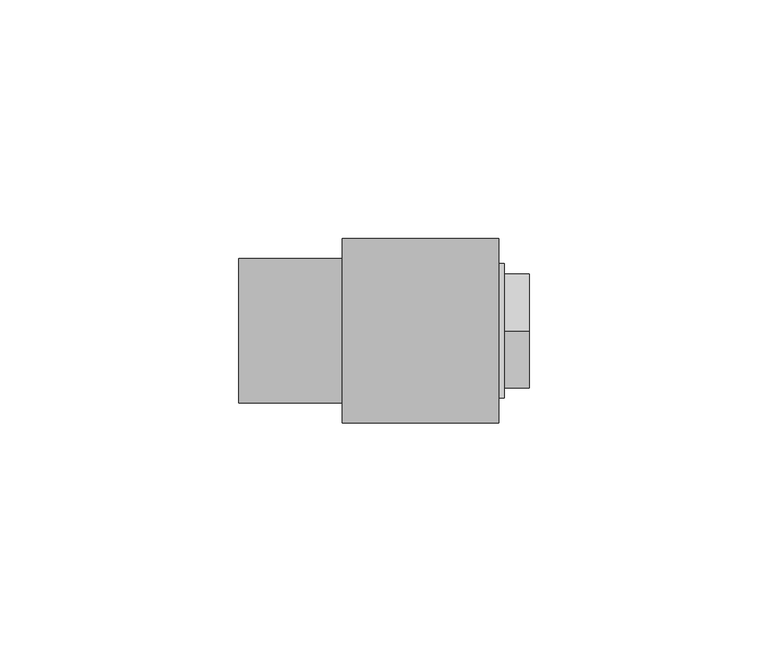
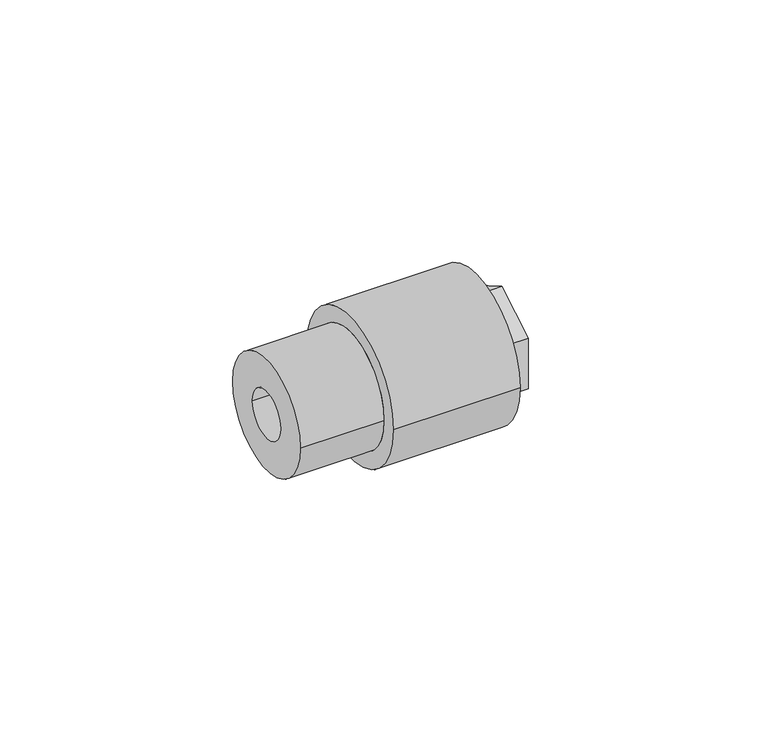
"""IFC4 building model written with IfcOpenShell, lengths in millimetres: pipe fitting geometry, Aquatherm - Fusion Outlet Transition Female : POTABLE BRASS - HEX."""

from ifc_helpers import new_model, si_unit, frame, origin, place, context, project, spatial, polyline, circle_curve, source, transform, mapped, element, save
from ifc_brep_helpers import plane_surface, cylinder_surface, revolved_surface, advanced_brep


def pipe_fitting_63520578(model_context):
    return source(origin(), model_context, "Body", "AdvancedBrep", [
        advanced_brep(
        [(26.416, 9.525, 0.0), (26.416, -9.525, 0.0), (36.5363125, -9.525, 0.0), (36.5363125, 9.525, 0.0), (26.416, 10.31875, 0.0), (26.416, -10.31875, 0.0), (23.241, 10.31875, 0.0), (23.241, -10.31875, 0.0), (23.241, 6.35, 0.0), (23.241, -6.35, 0.0), (20.066, 6.35, 0.0), (20.066, -6.35, 0.0), (20.066, 15.113, 0.0), (20.066, -15.113, 0.0), (32.766, 15.113, 0.0), (32.766, -15.113, 0.0), (39.116, 10.31875, 0.0), (39.116, -10.31875, 0.0), (39.116, -11.938, 0.0), (39.116, -11.938, -6.8924075), (39.116, 0.0, -13.784815), (39.116, 11.938, -6.8924075), (39.116, 11.938, 0.0), (39.116, 11.938, 6.8924075), (39.116, 0.0, 13.784815), (39.116, -11.938, 6.8924075), (32.766, 14.097, 0.0), (32.766, -14.097, 0.0), (33.956625, 14.097, 0.0), (33.956625, -14.097, 0.0), (33.956625, 0.0, -13.784815), (33.956625, -11.938, -6.8924075), (33.956625, -11.938, 6.8924075), (33.956625, 0.0, 13.784815), (33.956625, 11.938, 6.8924075), (33.956625, 11.938, -6.8924075)],
        [
            (0, 1, circle_curve(frame((26.416, 0.0, 0.0), z_axis=(-1.0, 0.0, 0.0), x_axis=(0.0, -1.0, 0.0)), 9.525)),
            (1, 2),
            (2, 3, circle_curve(frame((36.5363125, 0.0, 0.0), z_axis=(1.0, 0.0, 0.0), x_axis=(0.0, -1.0, 0.0)), 9.525)),
            (3, 0),
            (1, 0, circle_curve(frame((26.416, 0.0, 0.0), z_axis=(-1.0, 0.0, 0.0), x_axis=(0.0, -1.0, 0.0)), 9.525)),
            (3, 2, circle_curve(frame((36.5363125, 0.0, 0.0), z_axis=(1.0, 0.0, 0.0), x_axis=(0.0, -1.0, 0.0)), 9.525)),
            (0, 4),
            (4, 5, circle_curve(frame((26.416, 0.0, 0.0), z_axis=(-1.0, 0.0, 0.0), x_axis=(0.0, -1.0, 0.0)), 10.31875)),
            (5, 1),
            (5, 4, circle_curve(frame((26.416, 0.0, 0.0), z_axis=(-1.0, 0.0, 0.0), x_axis=(0.0, -1.0, 0.0)), 10.31875)),
            (4, 6),
            (6, 7, circle_curve(frame((23.241, 0.0, 0.0), z_axis=(-1.0, 0.0, 0.0), x_axis=(0.0, -1.0, 0.0)), 10.31875)),
            (7, 5),
            (7, 6, circle_curve(frame((23.241, 0.0, 0.0), z_axis=(-1.0, 0.0, 0.0), x_axis=(0.0, -1.0, 0.0)), 10.31875)),
            (6, 8),
            (8, 9, circle_curve(frame((23.241, 0.0, 0.0), z_axis=(-1.0, 0.0, 0.0), x_axis=(0.0, -1.0, 0.0)), 6.35)),
            (9, 7),
            (9, 8, circle_curve(frame((23.241, 0.0, 0.0), z_axis=(-1.0, 0.0, 0.0), x_axis=(0.0, -1.0, 0.0)), 6.35)),
            (8, 10),
            (10, 11, circle_curve(frame((20.066, 0.0, 0.0), z_axis=(-1.0, 0.0, 0.0), x_axis=(0.0, -1.0, 0.0)), 6.35)),
            (11, 9),
            (11, 10, circle_curve(frame((20.066, 0.0, 0.0), z_axis=(-1.0, 0.0, 0.0), x_axis=(0.0, -1.0, 0.0)), 6.35)),
            (10, 12),
            (12, 13, circle_curve(frame((20.066, 0.0, 0.0), z_axis=(-1.0, 0.0, 0.0), x_axis=(0.0, -1.0, 0.0)), 15.113)),
            (13, 11),
            (13, 12, circle_curve(frame((20.066, 0.0, 0.0), z_axis=(-1.0, 0.0, 0.0), x_axis=(0.0, -1.0, 0.0)), 15.113)),
            (12, 14),
            (14, 15, circle_curve(frame((32.766, 0.0, 0.0), z_axis=(-1.0, 0.0, 0.0), x_axis=(0.0, -1.0, 0.0)), 15.113)),
            (15, 13),
            (15, 14, circle_curve(frame((32.766, 0.0, 0.0), z_axis=(-1.0, 0.0, 0.0), x_axis=(0.0, -1.0, 0.0)), 15.113)),
            (16, 17, circle_curve(frame((39.116, 0.0, 0.0), z_axis=(-1.0, 0.0, 0.0), x_axis=(0.0, -1.0, 0.0)), 10.31875)),
            (17, 18),
            (18, 19),
            (19, 20),
            (20, 21),
            (21, 22),
            (22, 16),
            (17, 16, circle_curve(frame((39.116, 0.0, 0.0), z_axis=(-1.0, 0.0, 0.0), x_axis=(0.0, -1.0, 0.0)), 10.31875)),
            (22, 23),
            (23, 24),
            (24, 25),
            (25, 18),
            (2, 17),
            (16, 3),
            (14, 26),
            (26, 27, circle_curve(frame((32.766, 0.0, 0.0), z_axis=(-1.0, 0.0, 0.0), x_axis=(0.0, -1.0, 0.0)), 14.097)),
            (27, 15),
            (27, 26, circle_curve(frame((32.766, 0.0, 0.0), z_axis=(-1.0, 0.0, 0.0), x_axis=(0.0, -1.0, 0.0)), 14.097)),
            (26, 28),
            (28, 29, circle_curve(frame((33.956625, 0.0, 0.0), z_axis=(-1.0, 0.0, 0.0), x_axis=(0.0, -1.0, 0.0)), 14.097)),
            (29, 27),
            (29, 28, circle_curve(frame((33.956625, 0.0, 0.0), z_axis=(-1.0, 0.0, 0.0), x_axis=(0.0, -1.0, 0.0)), 14.097)),
            (30, 31),
            (31, 32),
            (32, 33),
            (33, 34),
            (34, 35),
            (35, 30),
            (35, 21),
            (20, 30),
            (34, 23),
            (33, 24),
            (32, 25),
            (31, 19),
        ],
        [
            revolved_surface(polyline([(36.5363125, -9.525, 0.0), (26.416, -9.525, 0.0)]), (40.9492251, 0.0, 0.0), (1.0, 0.0, 0.0)),
            plane_surface(frame((26.416, 0.0, 0.0), z_axis=(-1.0, 0.0, 0.0), x_axis=(0.0, -1.0, 0.0))),
            revolved_surface(polyline([(26.416, -10.31875, 0.0), (23.241, -10.31875, 0.0)]), (40.9492251, 0.0, 0.0), (1.0, 0.0, 0.0)),
            plane_surface(frame((23.241, 0.0, 0.0), z_axis=(1.0, 0.0, 0.0), x_axis=(0.0, -1.0, 0.0))),
            revolved_surface(polyline([(23.241, -6.35, 0.0), (20.066, -6.35, 0.0)]), (40.9492251, 0.0, 0.0), (1.0, 0.0, 0.0)),
            plane_surface(frame((20.066, 0.0, 0.0), z_axis=(-1.0, 0.0, 0.0), x_axis=(0.0, -1.0, 0.0))),
            cylinder_surface(frame((40.9492251, 0.0, 0.0), z_axis=(1.0, 0.0, 0.0), x_axis=(0.0, -1.0, 0.0)), 15.113),
            plane_surface(frame((39.116, 0.0, 0.0), z_axis=(1.0, 0.0, 0.0), x_axis=(0.0, -1.0, 0.0))),
            revolved_surface(polyline([(39.116, -10.31875, 0.0), (36.5363125, -9.525, 0.0)]), (40.9492251, 0.0, 0.0), (1.0, 0.0, 0.0)),
            plane_surface(frame((32.766, 0.0, 0.0), z_axis=(1.0, 0.0, 0.0), x_axis=(0.0, -1.0, 0.0))),
            cylinder_surface(frame((40.9492251, 0.0, 0.0), z_axis=(1.0, 0.0, 0.0), x_axis=(0.0, -1.0, 0.0)), 14.097),
            plane_surface(frame((33.956625, 11.938, -6.8924075), z_axis=(1.0, 0.0, 0.0), x_axis=(0.0, 0.8660254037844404, 0.49999999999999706))),
            plane_surface(frame((33.956625, 0.0, -13.784815), z_axis=(0.0, 0.49999999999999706, -0.8660254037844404), x_axis=(1.0, 0.0, 0.0))),
            plane_surface(frame((33.956625, 11.938, -6.8924075), z_axis=(0.0, 1.0, 0.0), x_axis=(1.0, 0.0, 0.0))),
            plane_surface(frame((33.956625, 11.938, 6.8924075), z_axis=(0.0, 0.5000000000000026, 0.8660254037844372), x_axis=(1.0, 0.0, 0.0))),
            plane_surface(frame((33.956625, 0.0, 13.784815), z_axis=(0.0, -0.4999999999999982, 0.8660254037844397), x_axis=(1.0, 0.0, 0.0))),
            plane_surface(frame((33.956625, -11.938, 6.8924075), z_axis=(0.0, -1.0, 0.0), x_axis=(1.0, 0.0, 0.0))),
            plane_surface(frame((33.956625, -11.938, -6.8924075), z_axis=(0.0, -0.5000000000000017, -0.8660254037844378), x_axis=(1.0, 0.0, 0.0))),
        ],
        [
            (0, [[1, 2, 3, 4]]),
            (0, [[-2, 5, -4, 6]]),
            (1, [[-1, 7, 8, 9]]),
            (1, [[-5, -9, 10, -7]]),
            (2, [[-8, 11, 12, 13]]),
            (2, [[-10, -13, 14, -11]]),
            (3, [[-12, 15, 16, 17]]),
            (3, [[-14, -17, 18, -15]]),
            (4, [[-16, 19, 20, 21]]),
            (4, [[-18, -21, 22, -19]]),
            (5, [[-20, 23, 24, 25]]),
            (5, [[-22, -25, 26, -23]]),
            (6, [[-24, 27, 28, 29]]),
            (6, [[-26, -29, 30, -27]]),
            (7, [[31, 32, 33, 34, 35, 36, 37]]),
            (7, [[38, -37, 39, 40, 41, 42, -32]]),
            (8, [[-3, 43, -31, 44]]),
            (8, [[-6, -44, -38, -43]]),
            (9, [[-28, 45, 46, 47]]),
            (9, [[-30, -47, 48, -45]]),
            (10, [[-46, 49, 50, 51]]),
            (10, [[-48, -51, 52, -49]]),
            (11, [[-50, -52], [53, 54, 55, 56, 57, 58]]),
            (12, [[-58, 59, -35, 60]]),
            (13, [[-57, 61, -39, -36, -59]]),
            (14, [[-56, 62, -40, -61]]),
            (15, [[-55, 63, -41, -62]]),
            (16, [[-54, 64, -33, -42, -63]]),
            (17, [[-53, -60, -34, -64]]),
        ],
    ),
        advanced_brep(
        [(-21.6243243, 15.113, 0.0), (-21.6243243, -15.113, 0.0), (-21.6243243, 6.35, 0.0), (-21.6243243, -6.35, 0.0), (20.066, 15.113, 0.0), (20.066, -15.113, 0.0), (20.066, 6.35, 0.0), (20.066, -6.35, 0.0), (0.0, 15.113, 0.0), (0.0, -15.113, 0.0), (32.766, 19.304, 0.0), (32.766, -19.304, 0.0), (32.766, 15.113, 0.0), (32.766, -15.113, 0.0), (0.0, 19.304, 0.0), (0.0, -19.304, 0.0)],
        [
            (0, 1, circle_curve(frame((-21.6243243, 0.0, 0.0), z_axis=(-1.0, 0.0, 0.0), x_axis=(0.0, -1.0, 0.0)), 15.113)),
            (1, 0, circle_curve(frame((-21.6243243, 0.0, 0.0), z_axis=(-1.0, 0.0, 0.0), x_axis=(0.0, -1.0, 0.0)), 15.113)),
            (2, 3, circle_curve(frame((-21.6243243, 0.0, 0.0), z_axis=(1.0, 0.0, 0.0), x_axis=(0.0, -1.0, 0.0)), 6.35)),
            (3, 2, circle_curve(frame((-21.6243243, 0.0, 0.0), z_axis=(1.0, 0.0, 0.0), x_axis=(0.0, -1.0, 0.0)), 6.35)),
            (4, 5, circle_curve(frame((20.066, 0.0, 0.0), z_axis=(1.0, 0.0, 0.0), x_axis=(0.0, -1.0, 0.0)), 15.113)),
            (5, 4, circle_curve(frame((20.066, 0.0, 0.0), z_axis=(1.0, 0.0, 0.0), x_axis=(0.0, -1.0, 0.0)), 15.113)),
            (6, 7, circle_curve(frame((20.066, 0.0, 0.0), z_axis=(-1.0, 0.0, 0.0), x_axis=(0.0, -1.0, 0.0)), 6.35)),
            (7, 6, circle_curve(frame((20.066, 0.0, 0.0), z_axis=(-1.0, 0.0, 0.0), x_axis=(0.0, -1.0, 0.0)), 6.35)),
            (2, 6),
            (7, 3),
            (0, 8),
            (8, 9, circle_curve(frame((0.0, 0.0, 0.0), z_axis=(-1.0, 0.0, 0.0), x_axis=(0.0, -1.0, 0.0)), 15.113)),
            (9, 1),
            (9, 8, circle_curve(frame((0.0, 0.0, 0.0), z_axis=(-1.0, 0.0, 0.0), x_axis=(0.0, -1.0, 0.0)), 15.113)),
            (10, 11, circle_curve(frame((32.766, 0.0, 0.0), z_axis=(1.0, 0.0, 0.0), x_axis=(0.0, -1.0, 0.0)), 19.304)),
            (11, 10, circle_curve(frame((32.766, 0.0, 0.0), z_axis=(1.0, 0.0, 0.0), x_axis=(0.0, -1.0, 0.0)), 19.304)),
            (12, 13, circle_curve(frame((32.766, 0.0, 0.0), z_axis=(-1.0, 0.0, 0.0), x_axis=(0.0, -1.0, 0.0)), 15.113)),
            (13, 12, circle_curve(frame((32.766, 0.0, 0.0), z_axis=(-1.0, 0.0, 0.0), x_axis=(0.0, -1.0, 0.0)), 15.113)),
            (14, 15, circle_curve(frame((0.0, 0.0, 0.0), z_axis=(-1.0, 0.0, 0.0), x_axis=(0.0, -1.0, 0.0)), 19.304)),
            (15, 14, circle_curve(frame((0.0, 0.0, 0.0), z_axis=(-1.0, 0.0, 0.0), x_axis=(0.0, -1.0, 0.0)), 19.304)),
            (13, 5),
            (4, 12),
            (11, 15),
            (14, 10),
        ],
        [
            plane_surface(frame((-21.6243243, -6.35, 0.0), z_axis=(-1.0, 0.0, 0.0), x_axis=(0.0, 0.0, -1.0))),
            plane_surface(frame((20.066, -6.35, 0.0), z_axis=(1.0, 0.0, 0.0), x_axis=(0.0, 0.0, 1.0))),
            revolved_surface(polyline([(20.066, -6.35, 0.0), (-21.6243243, -6.35, 0.0)]), (20.066, 0.0, 0.0), (1.0, 0.0, 0.0)),
            cylinder_surface(frame((0.0, 0.0, 0.0), z_axis=(-1.0, 0.0, 0.0), x_axis=(0.0, -1.0, 0.0)), 15.113),
            plane_surface(frame((32.766, -15.113, 0.0), z_axis=(1.0, 0.0, 0.0), x_axis=(0.0, 0.0, 1.0))),
            plane_surface(frame((0.0, -15.113, 0.0), z_axis=(-1.0, 0.0, 0.0), x_axis=(0.0, 0.0, -1.0))),
            revolved_surface(polyline([(32.766, -15.113, 0.0), (20.066, -15.113, 0.0)]), (32.766, 0.0, 0.0), (1.0, 0.0, 0.0)),
            cylinder_surface(frame((0.0, 0.0, 0.0), z_axis=(-1.0, 0.0, 0.0), x_axis=(0.0, -1.0, 0.0)), 19.304),
        ],
        [
            (0, [[1, 2], [3, 4]]),
            (1, [[5, 6], [7, 8]]),
            (2, [[-3, 9, -8, 10]]),
            (2, [[-4, -10, -7, -9]]),
            (3, [[-1, 11, 12, 13]]),
            (3, [[-2, -13, 14, -11]]),
            (4, [[15, 16], [17, 18]]),
            (5, [[19, 20], [-12, -14]]),
            (6, [[-18, 21, -5, 22]]),
            (6, [[-17, -22, -6, -21]]),
            (7, [[-16, 23, -19, 24]]),
            (7, [[-15, -24, -20, -23]]),
        ],
    ),
    ])


if __name__ == "__main__":
    model = new_model("IFC4")
    model_context = context("Model", 3, world=origin())
    ifc_project = project(units=[si_unit("LENGTHUNIT", "METRE", prefix="MILLI")], contexts=[model_context])
    site = spatial("IfcSite", under=ifc_project)
    building = spatial("IfcBuilding", under=site)
    placement = place(None, origin())
    pipe_fitting_shape = pipe_fitting_63520578(model_context)
    element("IfcPipeFitting", 1, ObjectType="Aquatherm - Fusion Outlet Transition Female : POTABLE BRASS - HEX", at=placement, inside=building, context=model_context, shape_type="MappedRepresentation", body=[
        mapped(pipe_fitting_shape, transform((0.0, 0.0, 0.0), x_axis=(1.0, 0.0, 0.0), y_axis=(0.0, 1.0, 0.0), z_axis=(0.0, 0.0, 1.0))),
    ])
    save(model, "model.ifc")
